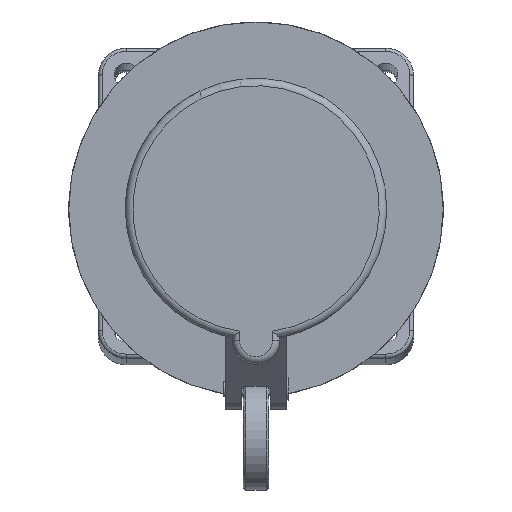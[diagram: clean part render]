
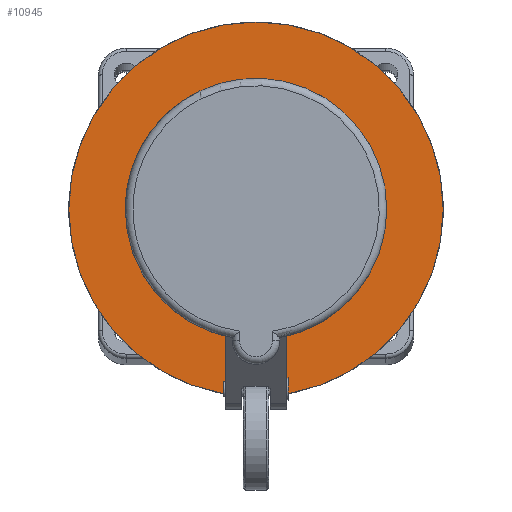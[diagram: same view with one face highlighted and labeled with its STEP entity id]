
A CAD part, top view. The second image highlights one B-rep face of the part: STEP entity #10945.
In plain terms, the highlighted planar face has unit normal (0, 0, 1).
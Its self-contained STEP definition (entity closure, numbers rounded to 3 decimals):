
#2981=CARTESIAN_POINT('',(0.,-35.45,47.7));
#2982=DIRECTION('',(0.,0.,1.));
#2983=DIRECTION('',(-1.,0.,0.));
#2984=AXIS2_PLACEMENT_3D('',#2981,#2982,#2983);
#2989=DIRECTION('',(0.,1.,0.));
#2990=VECTOR('',#2989,0.786);
#2991=CARTESIAN_POINT('',(6.4,-35.45,47.7));
#2992=LINE('714',#2991,#2990);
#2996=CARTESIAN_POINT('',(0.,0.,47.7));
#2997=DIRECTION('',(0.,0.,1.));
#2998=DIRECTION('',(0.182,-0.983,0.));
#2999=AXIS2_PLACEMENT_3D('',#2996,#2997,#2998);
#3004=DIRECTION('',(0.,-1.,0.));
#3005=VECTOR('',#3004,0.786);
#3006=CARTESIAN_POINT('',(-6.4,-34.664,47.7));
#3007=LINE('713',#3006,#3005);
#3011=CARTESIAN_POINT('',(0.,0.,47.7));
#3012=DIRECTION('',(0.,0.,1.));
#3013=DIRECTION('',(0.,-1.,0.));
#3014=AXIS2_PLACEMENT_3D('',#3011,#3012,#3013);
#3835=CARTESIAN_POINT('',(0.,0.,47.7));
#3836=DIRECTION('',(0.,0.,-1.));
#3837=DIRECTION('',(0.,-1.,0.));
#3838=AXIS2_PLACEMENT_3D('',#3835,#3836,#3837);
#6296=CARTESIAN_POINT('',(0.,-50.5,47.7));
#6297=CARTESIAN_POINT('',(0.,50.5,47.7));
#6298=VERTEX_POINT('',#6296);
#6299=VERTEX_POINT('',#6297);
#6671=CARTESIAN_POINT('',(-6.4,-35.45,47.7));
#6672=CARTESIAN_POINT('',(6.4,-35.45,47.7));
#6673=VERTEX_POINT('',#6671);
#6674=VERTEX_POINT('',#6672);
#6675=CARTESIAN_POINT('',(6.4,-34.664,47.7));
#6676=CARTESIAN_POINT('',(-6.4,-34.664,47.7));
#6677=VERTEX_POINT('',#6675);
#6678=VERTEX_POINT('',#6676);
#10925=CARTESIAN_POINT('',(0.,0.,47.7));
#10926=DIRECTION('',(0.,0.,1.));
#10927=DIRECTION('',(0.,1.,0.));
#10928=AXIS2_PLACEMENT_3D('',#10925,#10926,#10927);
#10929=PLANE('74',#10928);
#10931=ORIENTED_EDGE('425',*,*,#10930,.F.);
#10933=ORIENTED_EDGE('426',*,*,#10932,.T.);
#10934=EDGE_LOOP('74',(#10931,#10933));
#10935=FACE_OUTER_BOUND('74',#10934,.F.);
#10936=ORIENTED_EDGE('711',*,*,#10896,.T.);
#10938=ORIENTED_EDGE('714',*,*,#10937,.T.);
#10940=ORIENTED_EDGE('712',*,*,#10939,.T.);
#10942=ORIENTED_EDGE('713',*,*,#10941,.T.);
#10943=EDGE_LOOP('74',(#10936,#10938,#10940,#10942));
#10944=FACE_BOUND('74',#10943,.F.);
#2985=CIRCLE('711',#2984,6.4);
#3000=CIRCLE('712',#2999,35.25);
#3015=CIRCLE('425',#3014,50.5);
#3839=CIRCLE('426',#3838,50.5);
#10896=EDGE_CURVE('711',#6673,#6674,#2985,.T.);
#10930=EDGE_CURVE('425',#6298,#6299,#3015,.T.);
#10932=EDGE_CURVE('426',#6298,#6299,#3839,.T.);
#10937=EDGE_CURVE('714',#6674,#6677,#2992,.T.);
#10939=EDGE_CURVE('712',#6677,#6678,#3000,.T.);
#10941=EDGE_CURVE('713',#6678,#6673,#3007,.T.);
#10945=ADVANCED_FACE('74',(#10935,#10944),#10929,.T.);
